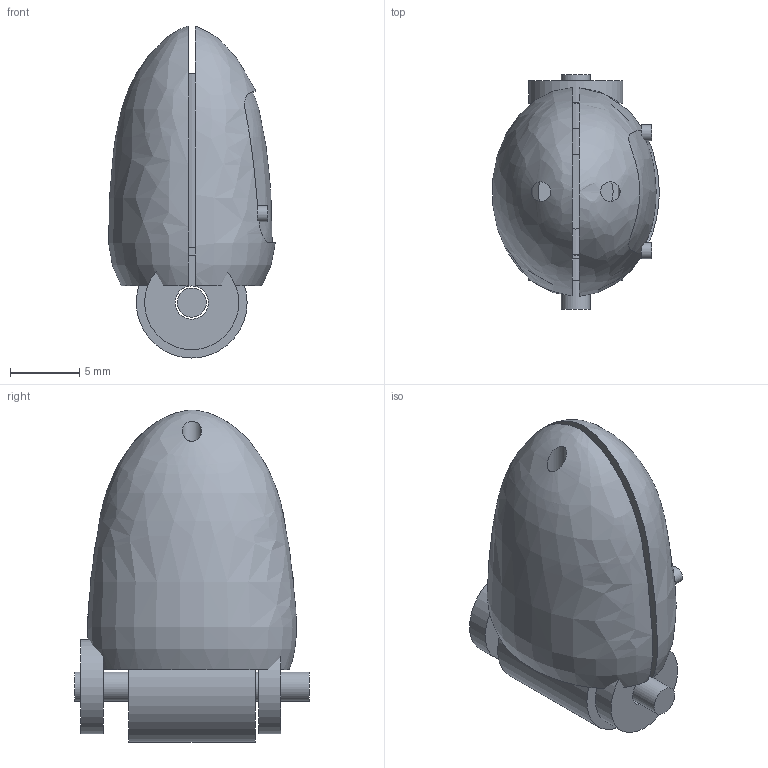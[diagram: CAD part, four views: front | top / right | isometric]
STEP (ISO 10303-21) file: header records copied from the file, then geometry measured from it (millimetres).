
FILE_DESCRIPTION(('FreeCAD Model'),'2;1');
FILE_NAME('Open CASCADE Shape Model','2026-10-05T09:22:57',('Author'),( ''),'Open CASCADE STEP processor 7.8','FreeCAD','Unknown');
FILE_SCHEMA(('AUTOMOTIVE_DESIGN { 1 0 10303 214 1 1 1 1 }'));
Length unit declared in the file: millimetre
Products named in the file (11): Export_middle_distal; middle_distalDorsalShell; middle_distalFlexorShell; middle_distalInsetPad; middle_distalCore; middle_distalHingeBarrel; middle_distalCheek-1; middle_distalCheek1; middle_distalPin; middle_distalScrew_-1_0.32; middle_distalScrew_1_0.32
Assembly tree (10 placements, depth 2):
  Export_middle_distal
    middle_distalDorsalShell
    middle_distalFlexorShell
    middle_distalInsetPad
    middle_distalCore
    middle_distalHingeBarrel
    middle_distalCheek-1
    middle_distalCheek1
    middle_distalPin
    middle_distalScrew_-1_0.32
    middle_distalScrew_1_0.32
Bounding box: 12.03 x 16.92 x 23.96 mm (x, y, z)
Volume: 2672.7 mm3; surface area: 2650.1 mm2
Topology: 10 solids, 10 shells, 61 faces, 110 edges, 68 vertices
Faces by surface type: cylinder 26, plane 24, sphere 8, bspline 3
Full cylindrical faces by diameter (mm): 0.464 x2, 1.16 x2, 1.4 x2, 2.1 x1, 2.4 x3, 5.4 x1, 6.8 x2, 8 x1
Entity records: 2748 total; most frequent: CARTESIAN_POINT 1412, DIRECTION 260, ORIENTED_EDGE 212, AXIS2_PLACEMENT_3D 115, EDGE_CURVE 106, FACE_BOUND 74, EDGE_LOOP 74, VERTEX_POINT 68
